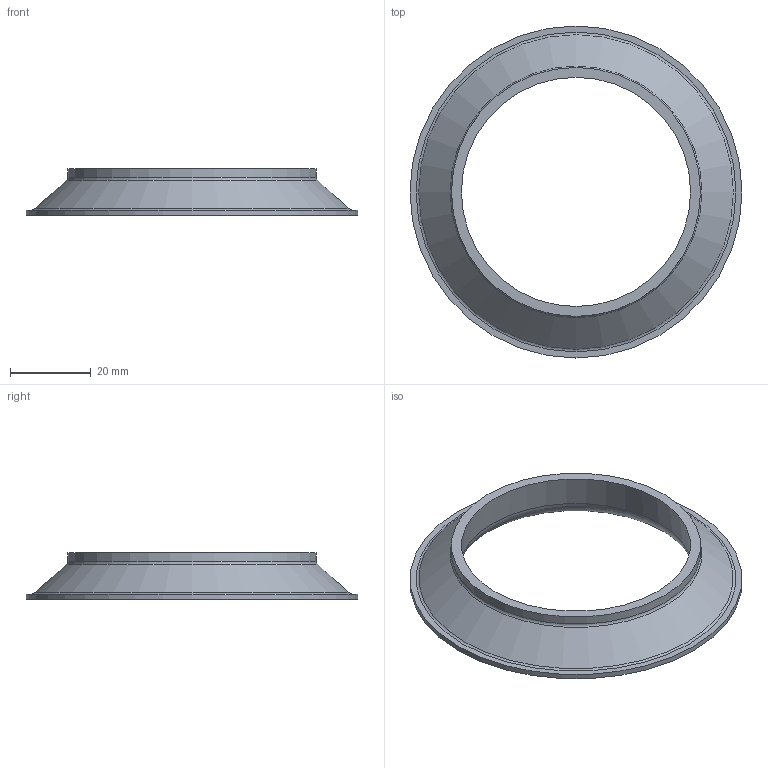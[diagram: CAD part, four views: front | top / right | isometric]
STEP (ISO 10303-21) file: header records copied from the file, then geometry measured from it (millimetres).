
FILE_DESCRIPTION( ('This file contains a STEP AP42 implementation' ,'as created by ZW3D STEP Interface translator.') ,'2;1' );
FILE_NAME( 'KM-57.stp' ,'26 511.113140', (''), ('ZWCAD Software Co.'), 'Version 1.0', 'ZW3D to STEP translator', '' );
FILE_SCHEMA(('AP242_MANAGED_MODEL_BASED_3D_ENGINEERING_MIM_LF { 1 0 10303 442 1 1 4 }'));
Length unit declared in the file: millimetre
Products named in the file (1): 0
Bounding box: 82 x 82 x 11.5 mm (x, y, z)
Volume: 13519.4 mm3; surface area: 8713.5 mm2
Topology: 1 solids, 1 shells, 10 faces, 17 edges, 10 vertices
Faces by surface type: plane 3, torus 3, cylinder 2, cone 2
Full cylindrical faces by diameter (mm): 61.5 x1, 82 x1
Entity records: 276 total; most frequent: DIRECTION 52, CARTESIAN_POINT 38, ORIENTED_EDGE 34, AXIS2_PLACEMENT_3D 24, EDGE_CURVE 17, CIRCLE 13, EDGE_LOOP 13, VERTEX_POINT 10
